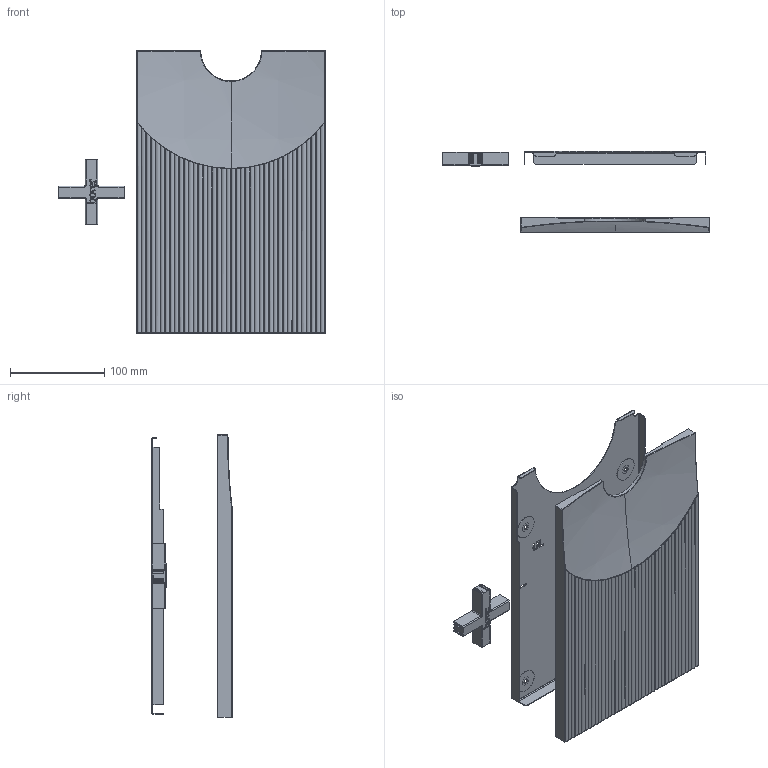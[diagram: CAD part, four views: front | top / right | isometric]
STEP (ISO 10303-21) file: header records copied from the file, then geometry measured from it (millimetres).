
FILE_DESCRIPTION (( 'STEP AP203' ), '1' );
FILE_NAME ('AC126001XXXU.STEP', '2025-01-28T09:03:53', ( '' ), ( '' ), 'SwSTEP 2.0', 'SolidWorks 2023', '' );
FILE_SCHEMA (( 'CONFIG_CONTROL_DESIGN' ));
Length unit declared in the file: millimetre
Products named in the file (8): SUB126-020-CN; SUB126-013-CNU; AC126001XXXU; 998-006; 126-030; 126-040; 126-026; 126-025
Assembly tree (14 placements, depth 3):
  AC126001XXXU
    SUB126-013-CNU
      126-040
      126-025  x4
      126-026
    SUB126-020-CN
      126-030
      998-006  x5
Bounding box: 282.91 x 86.24 x 300 mm (x, y, z)
Volume: 217284.8 mm3; surface area: 309341.3 mm2
Topology: 12 solids, 12 shells, 1026 faces, 2677 edges, 1721 vertices
Faces by surface type: cylinder 458, plane 298, torus 135, bspline 112, sphere 13, cone 10
Entity records: 40517 total; most frequent: CARTESIAN_POINT 17032, ORIENTED_EDGE 5058, DIRECTION 4363, EDGE_CURVE 2529, VERTEX_POINT 1625, AXIS2_PLACEMENT_3D 1600, LINE 1163, VECTOR 1163
